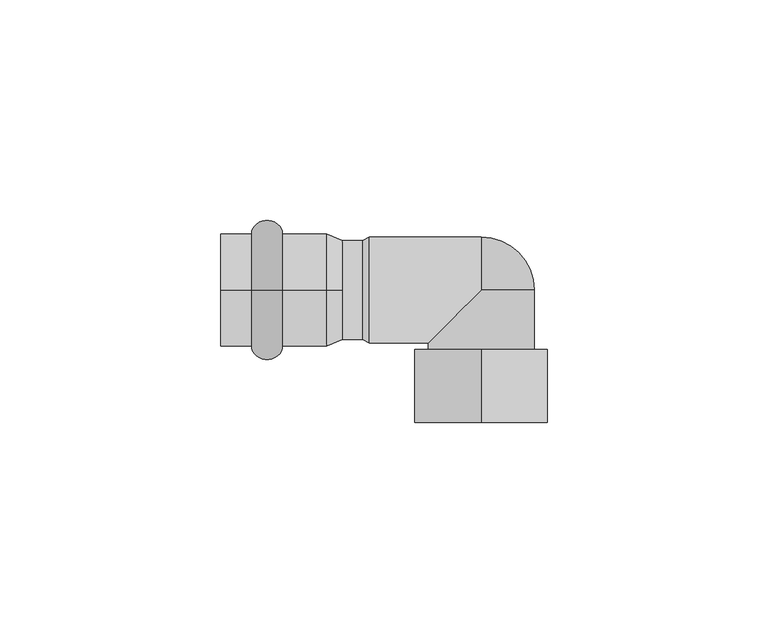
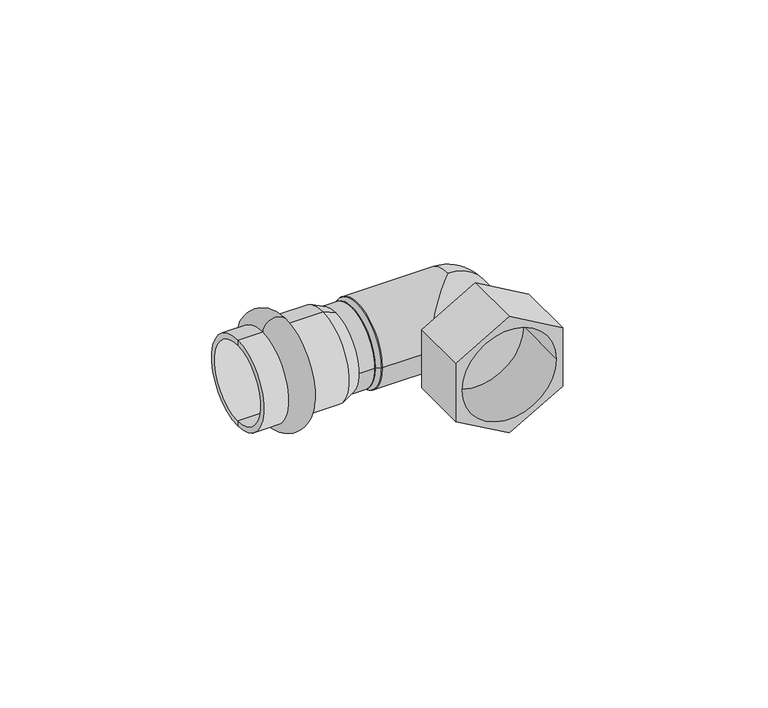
"""IFC4 building model written with IfcOpenShell, lengths in millimetres: pipe fitting geometry."""

from ifc_helpers import new_model, si_unit, point, frame, origin, origin_2d, place, context, project, spatial, polyline, circle_curve, ellipse_curve, trimmed, segment, composite_curve, outline, extrude, source, transform, mapped, element, save
from ifc_brep_helpers import plane_surface, cylinder_surface, revolved_surface, advanced_brep


def pipe_fitting_00034e98(model_context):
    return source(origin(), model_context, "Body", "SolidModel", [
        advanced_brep(
        [(-17.0, 0.0, 12.75), (-17.0, 0.0, -12.75), (-10.0, 0.0, -12.75), (-10.0, 0.0, 12.75)],
        [
            (0, 1, circle_curve(frame((-17.0, 0.0, 0.0), z_axis=(-1.0, 0.0, 0.0), x_axis=(0.0, 0.0, -1.0)), 12.75)),
            (1, 2),
            (2, 3, circle_curve(frame((-10.0, 0.0, 0.0), z_axis=(1.0, 0.0, 0.0), x_axis=(0.0, 0.0, -1.0)), 12.75)),
            (3, 0),
            (1, 0, circle_curve(frame((-17.0, 0.0, 0.0), z_axis=(-1.0, 0.0, 0.0), x_axis=(0.0, 0.0, -1.0)), 12.75)),
            (3, 2, circle_curve(frame((-10.0, 0.0, 0.0), z_axis=(1.0, 0.0, 0.0), x_axis=(0.0, 0.0, -1.0)), 12.75)),
            (2, 1, ellipse_curve(frame((-13.5, 0.0, -12.75), z_axis=(0.0, 1.0, 0.0), x_axis=(-1.0, 0.0, 0.0)), 3.5, 3.1)),
            (0, 3, ellipse_curve(frame((-13.5, 0.0, 12.75), z_axis=(0.0, 1.0, 0.0), x_axis=(-1.0, 0.0, 0.0)), 3.5, 3.1)),
        ],
        [
            revolved_surface(polyline([(-10.0, 0.0, -12.75), (-17.0, 0.0, -12.75)]), (3.0, 0.0, 0.0), (1.0, 0.0, 0.0)),
            revolved_surface(trimmed(ellipse_curve(frame((-13.5, 0.0, -12.75), z_axis=(0.0, -1.0, 0.0), x_axis=(-1.0, 0.0, 0.0)), 3.5, 3.1), [point((-17.0, 0.0, -12.75))], [point((-10.0, 0.0, -12.75))], True, "CARTESIAN"), (3.0, 0.0, 0.0), (1.0, 0.0, 0.0)),
        ],
        [
            (0, [[1, 2, 3, 4]]),
            (0, [[5, -4, 6, -2]]),
            (1, [[-3, 7, -1, 8]]),
            (1, [[-6, -8, -5, -7]]),
        ],
    ),
        advanced_brep(
        [(3.5337785, 0.0, 11.25), (3.5337785, 0.0, -11.25), (0.0, 0.0, -12.75), (0.0, 0.0, 12.75), (-24.0, 0.0, 11.25), (-24.0, 0.0, -11.25), (-24.0, 0.0, 12.75), (-24.0, 0.0, -12.75)],
        [
            (0, 1, circle_curve(frame((3.5337785, 0.0, 0.0), z_axis=(-1.0, 0.0, 0.0), x_axis=(0.0, 0.0, -1.0)), 11.25)),
            (1, 2),
            (2, 3, circle_curve(frame((0.0, 0.0, 0.0), z_axis=(1.0, 0.0, 0.0), x_axis=(0.0, 0.0, -1.0)), 12.75)),
            (3, 0),
            (1, 0, circle_curve(frame((3.5337785, 0.0, 0.0), z_axis=(-1.0, 0.0, 0.0), x_axis=(0.0, 0.0, -1.0)), 11.25)),
            (3, 2, circle_curve(frame((0.0, 0.0, 0.0), z_axis=(1.0, 0.0, 0.0), x_axis=(0.0, 0.0, -1.0)), 12.75)),
            (4, 5, circle_curve(frame((-24.0, 0.0, 0.0), z_axis=(-1.0, 0.0, 0.0), x_axis=(0.0, 0.0, -1.0)), 11.25)),
            (5, 1),
            (0, 4),
            (5, 4, circle_curve(frame((-24.0, 0.0, 0.0), z_axis=(-1.0, 0.0, 0.0), x_axis=(0.0, 0.0, -1.0)), 11.25)),
            (6, 7, circle_curve(frame((-24.0, 0.0, 0.0), z_axis=(-1.0, 0.0, 0.0), x_axis=(0.0, 0.0, -1.0)), 12.75)),
            (7, 5),
            (4, 6),
            (7, 6, circle_curve(frame((-24.0, 0.0, 0.0), z_axis=(-1.0, 0.0, 0.0), x_axis=(0.0, 0.0, -1.0)), 12.75)),
            (2, 7),
            (6, 3),
        ],
        [
            revolved_surface(polyline([(0.0, 0.0, -12.75), (3.5337785, 0.0, -11.25)]), (3.0, 0.0, 0.0), (1.0, 0.0, 0.0)),
            revolved_surface(polyline([(3.5337785, 0.0, -11.25), (-24.0, 0.0, -11.25)]), (3.0, 0.0, 0.0), (1.0, 0.0, 0.0)),
            plane_surface(frame((-24.0, 0.0, 0.0), z_axis=(-1.0, 0.0, 0.0), x_axis=(0.0, 0.0, -1.0))),
            cylinder_surface(frame((3.0, 0.0, 0.0), z_axis=(1.0, 0.0, 0.0), x_axis=(0.0, 0.0, -1.0)), 12.75),
        ],
        [
            (0, [[1, 2, 3, 4]]),
            (0, [[5, -4, 6, -2]]),
            (1, [[7, 8, -1, 9]]),
            (1, [[10, -9, -5, -8]]),
            (2, [[11, 12, -7, 13]]),
            (2, [[14, -13, -10, -12]]),
            (3, [[-3, 15, -11, 16]]),
            (3, [[-6, -16, -14, -15]]),
        ],
    ),
        advanced_brep(
        [(9.7, -12.0, 0.0), (9.7, 12.0, 0.0), (35.0, 12.0, 0.0), (35.0, 0.0, -12.0), (23.0, -12.0, 0.0), (35.0, 0.0, 12.0), (47.0, -13.5, 0.0), (23.0, -13.5, 0.0), (47.0, 0.0, 0.0)],
        [
            (0, 1, circle_curve(frame((9.7, 0.0, 0.0), z_axis=(-1.0, 0.0, 0.0), x_axis=(0.0, 1.0, 0.0)), 12.0)),
            (1, 0, circle_curve(frame((9.7, 0.0, 0.0), z_axis=(-1.0, 0.0, 0.0), x_axis=(0.0, 1.0, 0.0)), 12.0)),
            (1, 2),
            (2, 3, circle_curve(frame((35.0, 0.0, 0.0), z_axis=(-1.0, 0.0, 0.0), x_axis=(0.0, 1.0, 0.0)), 12.0)),
            (3, 4, ellipse_curve(frame((35.0, 0.0, 0.0), z_axis=(-0.7071067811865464, 0.7071067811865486, 0.0), x_axis=(0.7071067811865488, 0.7071067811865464, 0.0)), 16.9705627, 12.0)),
            (4, 0),
            (4, 5, ellipse_curve(frame((35.0, 0.0, 0.0), z_axis=(-0.7071067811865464, 0.7071067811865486, 0.0), x_axis=(0.7071067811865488, 0.7071067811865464, 0.0)), 16.9705627, 12.0)),
            (5, 2, circle_curve(frame((35.0, 0.0, 0.0), z_axis=(-1.0, 0.0, 0.0), x_axis=(0.0, 1.0, 0.0)), 12.0)),
            (6, 7, circle_curve(frame((35.0, -13.5, 0.0), z_axis=(0.0, -1.0, 0.0), x_axis=(0.0, 0.0, 1.0)), 12.0)),
            (7, 6, circle_curve(frame((35.0, -13.5, 0.0), z_axis=(0.0, -1.0, 0.0), x_axis=(0.0, 0.0, -1.0)), 12.0)),
            (7, 4),
            (3, 8, circle_curve(frame((35.0, 0.0, 0.0), z_axis=(0.0, -1.0, 0.0), x_axis=(0.0, 0.0, -1.0)), 12.0)),
            (8, 6),
            (8, 5, circle_curve(frame((35.0, 0.0, 0.0), z_axis=(0.0, -1.0, 0.0), x_axis=(0.0, 0.0, 1.0)), 12.0)),
        ],
        [
            plane_surface(frame((9.7, 12.0, 0.0), z_axis=(-1.0, 0.0, 0.0), x_axis=(0.0, 0.0, -1.0))),
            cylinder_surface(frame((9.7, 0.0, 0.0), z_axis=(1.0, 0.0, 0.0), x_axis=(0.0, 1.0, 0.0)), 12.0),
            plane_surface(frame((35.0, -13.5, 0.0), z_axis=(0.0, -1.0, 0.0), x_axis=(0.0, 0.0, -1.0))),
            cylinder_surface(frame((35.0, 0.0, 0.0), z_axis=(0.0, -1.0, 0.0), x_axis=(0.0, 0.0, -1.0)), 12.0),
            cylinder_surface(frame((35.0, 0.0, 0.0), z_axis=(0.0, -1.0, 0.0), x_axis=(0.0, 0.0, 1.0)), 12.0),
            revolved_surface(trimmed(ellipse_curve(frame((35.0, 0.0, 0.0), z_axis=(0.0, -1.0, 0.0), x_axis=(1.0, 0.0, 0.0)), 12.0, 12.0), [point((35.0, 0.0, -12.0))], [point((35.0, 0.0, 12.0))], True, "CARTESIAN"), (35.0, 0.0, 0.0), (0.0, 0.0, 1.0)),
        ],
        [
            (0, [[1, 2]]),
            (1, [[-2, 3, 4, 5, 6]]),
            (1, [[-1, -6, 7, 8, -3]]),
            (2, [[9, 10]]),
            (3, [[-10, 11, -5, 12, 13]]),
            (4, [[-9, -13, 14, -7, -11]]),
            (5, [[-4, -8, -14, -12]]),
        ],
    ),
        advanced_brep(
        [(50.0, -13.5, -8.660254), (50.0, -30.0, -8.660254), (35.0, -30.0, -17.3205081), (35.0, -13.5, -17.3205081), (36.0, -13.5, -0.5773503), (35.0, -13.5, -1.1547005), (35.0, -14.0, -1.1547005), (36.0, -14.0, -0.5773503), (20.0, -30.0, -8.660254), (20.0, -13.5, -8.660254), (34.0, -13.5, -0.5773503), (34.0, -14.0, -0.5773503), (20.0, -13.5, 8.660254), (20.0, -30.0, 8.660254), (35.0, -30.0, 17.3205081), (35.0, -13.5, 17.3205081), (34.0, -13.5, 0.5773503), (35.0, -13.5, 1.1547005), (35.0, -14.0, 1.1547005), (34.0, -14.0, 0.5773503), (50.0, -30.0, 8.660254), (50.0, -13.5, 8.660254), (36.0, -13.5, 0.5773503), (36.0, -14.0, 0.5773503), (48.25, -30.0, 0.0), (21.75, -30.0, 0.0), (48.25, -14.0, 0.0), (21.75, -14.0, 0.0)],
        [
            (0, 1),
            (1, 2),
            (2, 3),
            (3, 0),
            (4, 5),
            (5, 6),
            (6, 7),
            (7, 4),
            (2, 8),
            (8, 9),
            (9, 3),
            (5, 10),
            (10, 11),
            (11, 6),
            (12, 13),
            (13, 14),
            (14, 15),
            (15, 12),
            (16, 17),
            (17, 18),
            (18, 19),
            (19, 16),
            (14, 20),
            (20, 21),
            (21, 15),
            (17, 22),
            (22, 23),
            (23, 18),
            (8, 13),
            (12, 9),
            (10, 16),
            (19, 11),
            (1, 20),
            (24, 25, circle_curve(frame((35.0, -30.0, 0.0), z_axis=(0.0, 1.0, 0.0), x_axis=(-1.0, 0.0, 0.0)), 13.25)),
            (25, 24, circle_curve(frame((35.0, -30.0, 0.0), z_axis=(0.0, 1.0, 0.0), x_axis=(-1.0, 0.0, 0.0)), 13.25)),
            (0, 21),
            (4, 22),
            (7, 23),
            (26, 27, circle_curve(frame((35.0, -14.0, 0.0), z_axis=(0.0, -1.0, 0.0), x_axis=(-1.0, 0.0, 0.0)), 13.25)),
            (27, 26, circle_curve(frame((35.0, -14.0, 0.0), z_axis=(0.0, -1.0, 0.0), x_axis=(-1.0, 0.0, 0.0)), 13.25)),
            (27, 25),
            (24, 26),
        ],
        [
            plane_surface(frame((50.0, -30.0, -8.660254), z_axis=(0.5000000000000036, 0.0, -0.8660254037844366), x_axis=(-0.8660254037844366, 0.0, -0.5000000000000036))),
            plane_surface(frame((36.0, -13.5, -0.5773503), z_axis=(-0.500000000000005, 0.0, 0.8660254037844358), x_axis=(-0.8660254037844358, 0.0, -0.500000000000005))),
            plane_surface(frame((35.0, -30.0, -17.3205081), z_axis=(-0.49999999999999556, 0.0, -0.8660254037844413), x_axis=(-0.8660254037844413, 0.0, 0.49999999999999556))),
            plane_surface(frame((35.0, -13.5, -1.1547005), z_axis=(0.49999999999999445, 0.0, 0.8660254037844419), x_axis=(-0.8660254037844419, 0.0, 0.49999999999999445))),
            plane_surface(frame((20.0, -30.0, 8.660254), z_axis=(-0.500000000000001, 0.0, 0.8660254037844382), x_axis=(0.8660254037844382, 0.0, 0.500000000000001))),
            plane_surface(frame((34.0, -13.5, 0.5773503), z_axis=(0.5000000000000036, 0.0, -0.8660254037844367), x_axis=(0.8660254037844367, 0.0, 0.5000000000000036))),
            plane_surface(frame((35.0, -30.0, 17.3205081), z_axis=(0.49999999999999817, 0.0, 0.8660254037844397), x_axis=(0.8660254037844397, 0.0, -0.49999999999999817))),
            plane_surface(frame((35.0, -13.5, 1.1547005), z_axis=(-0.500000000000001, 0.0, -0.866025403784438), x_axis=(0.866025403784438, 0.0, -0.500000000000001))),
            plane_surface(frame((20.0, -30.0, -8.660254), z_axis=(-1.0, 0.0, 0.0), x_axis=(0.0, 0.0, 1.0))),
            plane_surface(frame((34.0, -13.5, -0.5773503), z_axis=(1.0, 0.0, 0.0), x_axis=(0.0, 0.0, 1.0))),
            plane_surface(frame((36.0, -30.0, 0.5773503), z_axis=(0.0, -1.0, 0.0), x_axis=(0.0, 0.0, -1.0))),
            plane_surface(frame((50.0, -30.0, 8.660254), z_axis=(1.0, 0.0, 0.0), x_axis=(0.0, 0.0, -1.0))),
            plane_surface(frame((50.0, -13.5, 8.660254), z_axis=(0.0, 1.0, 0.0), x_axis=(0.0, 0.0, -1.0))),
            plane_surface(frame((36.0, -13.5, 0.5773503), z_axis=(-1.0, 0.0, 0.0), x_axis=(0.0, 0.0, -1.0))),
            plane_surface(frame((21.75, -14.0, 0.0), z_axis=(0.0, -1.0, 0.0), x_axis=(0.0, 0.0, 1.0))),
            revolved_surface(polyline([(21.75, -14.0, 0.0), (21.75, -30.0, 0.0)]), (35.0, -30.0, 0.0), (0.0, 1.0, 0.0)),
        ],
        [
            (0, [[1, 2, 3, 4]]),
            (1, [[5, 6, 7, 8]]),
            (2, [[-3, 9, 10, 11]]),
            (3, [[12, 13, 14, -6]]),
            (4, [[15, 16, 17, 18]]),
            (5, [[19, 20, 21, 22]]),
            (6, [[-17, 23, 24, 25]]),
            (7, [[26, 27, 28, -20]]),
            (8, [[-10, 29, -15, 30]]),
            (9, [[31, -22, 32, -13]]),
            (10, [[-2, 33, -23, -16, -29, -9], [34, 35]]),
            (11, [[-1, 36, -24, -33]]),
            (12, [[-4, -11, -30, -18, -25, -36], [-5, 37, -26, -19, -31, -12]]),
            (13, [[-37, -8, 38, -27]]),
            (14, [[39, 40], [-7, -14, -32, -21, -28, -38]]),
            (15, [[-40, 41, -34, 42]]),
            (15, [[-39, -42, -35, -41]]),
        ],
    ),
        advanced_brep(
        [(9.7, -12.0, 0.0), (9.7, 12.0, 0.0), (8.2, -11.25, 0.0), (8.2, 11.25, 0.0)],
        [
            (0, 1, circle_curve(frame((9.7, 0.0, 0.0), z_axis=(1.0, 0.0, 0.0), x_axis=(0.0, -1.0, 0.0)), 12.0)),
            (1, 0, circle_curve(frame((9.7, 0.0, 0.0), z_axis=(1.0, 0.0, 0.0), x_axis=(0.0, 1.0, 0.0)), 12.0)),
            (2, 3, circle_curve(frame((8.2, 0.0, 0.0), z_axis=(-1.0, 0.0, 0.0), x_axis=(0.0, 1.0, 0.0)), 11.25)),
            (3, 2, circle_curve(frame((8.2, 0.0, 0.0), z_axis=(-1.0, 0.0, 0.0), x_axis=(0.0, -1.0, 0.0)), 11.25)),
            (3, 1),
            (0, 2),
        ],
        [
            plane_surface(frame((9.7, 0.0, 0.0), z_axis=(1.0, 0.0, 0.0), x_axis=(0.0, 0.0, -1.0))),
            plane_surface(frame((8.2, 0.0, 0.0), z_axis=(-1.0, 0.0, 0.0), x_axis=(0.0, 0.0, -1.0))),
            revolved_surface(polyline([(8.2, 11.25, 0.0), (9.7, 12.0, 0.0)]), (-14.3, 0.0, 0.0), (1.0, 0.0, 0.0)),
            revolved_surface(polyline([(8.2, -11.25, 0.0), (9.7, -12.0, 0.0)]), (-14.3, 0.0, 0.0), (1.0, 0.0, 0.0)),
        ],
        [
            (0, [[1, 2]]),
            (1, [[3, 4]]),
            (2, [[-4, 5, -1, 6]]),
            (3, [[-3, -6, -2, -5]]),
        ],
    ),
        extrude(outline(composite_curve([segment(trimmed(circle_curve(origin_2d(), 11.25), [point((-11.25, 0.0))], [point((11.25, 0.0))], False, "CARTESIAN"), True, "CONTINUOUS"), segment(trimmed(circle_curve(origin_2d(), 11.25), [point((11.25, 0.0))], [point((-11.25, 0.0))], False, "CARTESIAN"), True, "CONTINUOUS")], self_intersect=False)), frame((0.0, 0.0, 0.0), z_axis=(1.0, 0.0, 0.0), x_axis=(0.0, 1.0, 0.0)), (0.0, 0.0, 1.0), 8.2),
    ])


if __name__ == "__main__":
    model = new_model("IFC4")
    model_context = context("Model", 3, world=origin())
    ifc_project = project(units=[si_unit("LENGTHUNIT", "METRE", prefix="MILLI")], contexts=[model_context])
    site = spatial("IfcSite", under=ifc_project)
    building = spatial("IfcBuilding", under=site)
    placement = place(None, origin())
    pipe_fitting_shape = pipe_fitting_00034e98(model_context)
    element("IfcPipeFitting", 1, ObjectType="РЕХАУ_Пресс Угольник ВР : 22 x Rp 3/4\"", at=placement, inside=building, context=model_context, shape_type="MappedRepresentation", body=[
        mapped(pipe_fitting_shape, transform((0.0, 0.0, 0.0), x_axis=(1.0, 0.0, 0.0), y_axis=(0.0, 1.0, 0.0), z_axis=(0.0, 0.0, 1.0))),
    ])
    save(model, "model.ifc")
